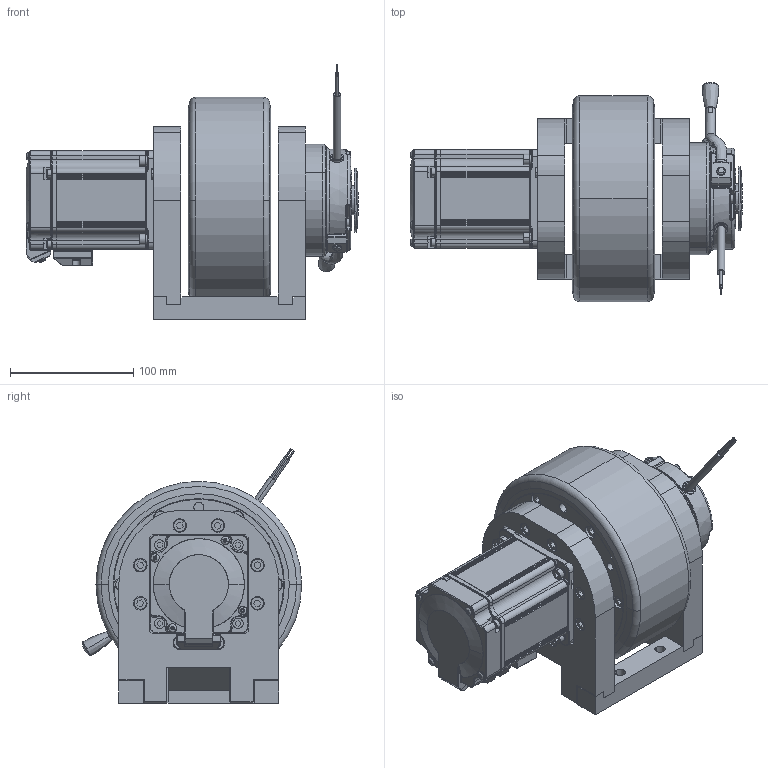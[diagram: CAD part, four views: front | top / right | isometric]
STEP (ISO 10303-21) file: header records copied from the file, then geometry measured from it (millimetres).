
FILE_DESCRIPTION (( 'STEP AP214' ), '1' );
FILE_NAME ('TEC-167P750SP-48H.STEP', '2021-11-19T00:59:55', ( 'admin' ), ( 'Microsoft' ), 'SwSTEP 2.0', 'SolidWorks 2012', '' );
FILE_SCHEMA (( 'AUTOMOTIVE_DESIGN' ));
Length unit declared in the file: millimetre
Products named in the file (1): TEC-167P750SP-48H
Bounding box: 269.5 x 178.07 x 206.33 mm (x, y, z)
Surface area: 283479.6 mm2 (no closed solid volume)
Topology: 0 solids, 91 shells, 1279 faces, 4209 edges, 2911 vertices
Faces by surface type: plane 511, cylinder 468, bspline 145, torus 80, cone 57, sphere 18
Entity records: 90189 total; most frequent: CARTESIAN_POINT 40365, DIRECTION 7496, ORIENTED_EDGE 6719, EDGE_CURVE 4191, VERTEX_POINT 2910, AXIS2_PLACEMENT_3D 2734, LINE 2028, VECTOR 2028
